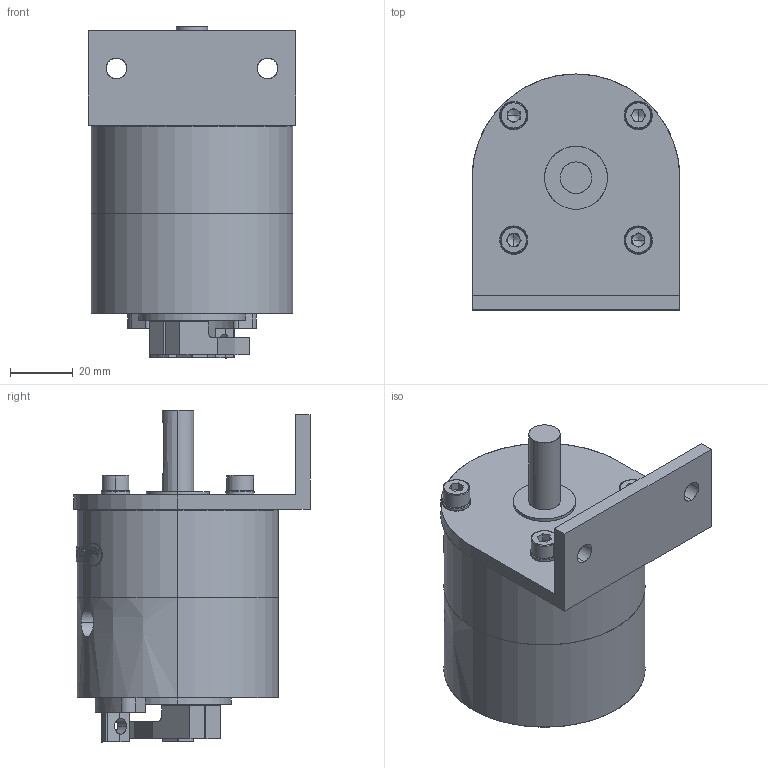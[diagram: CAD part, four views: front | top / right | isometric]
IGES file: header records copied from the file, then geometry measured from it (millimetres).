
Start section: SolidWorks IGES file using analytic representation for surfaces
Global section: file name: C:\Users\Chieh_Lu\Dropbox\¤u§@«Ç\PRO\PROA30S-D\PROA30S-D-#-#\PRO30D-#-#-L1.IGS; native system: SolidWorks 2014; preprocessor: SolidWorks 2014; author: Chieh_Lu; date: 150801.213948; units: millimetre
Bounding box: 66 x 75 x 105.5 mm (x, y, z)
Surface area: 53733.2 mm2 (no closed solid volume)
Topology: 0 solids, 0 shells, 522 faces, 7701 edges, 7689 vertices
Faces by surface type: bspline 290, revolution 232
